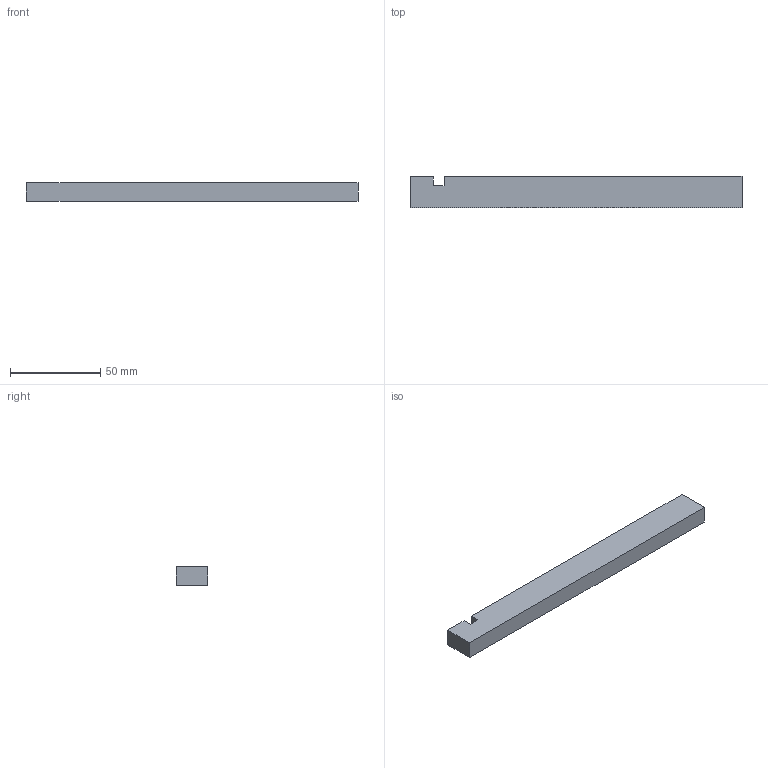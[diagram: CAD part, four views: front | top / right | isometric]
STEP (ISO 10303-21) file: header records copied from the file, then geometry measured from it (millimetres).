
FILE_DESCRIPTION (( 'STEP AP203' ), '1' );
FILE_NAME ('AB812FJ.STEP', '2024-02-22T13:15:54', ( '' ), ( '' ), 'SwSTEP 2.0', 'SolidWorks 2020', '' );
FILE_SCHEMA (( 'CONFIG_CONTROL_DESIGN' ));
Length unit declared in the file: millimetre
Products named in the file (1): AB812FJ
Bounding box: 183.86 x 17.47 x 10 mm (x, y, z)
Volume: 31775.7 mm3; surface area: 10480 mm2
Topology: 1 solids, 1 shells, 10 faces, 24 edges, 16 vertices
Faces by surface type: plane 10
Entity records: 365 total; most frequent: CARTESIAN_POINT 51, ORIENTED_EDGE 48, DIRECTION 46, LINE 24, VECTOR 24, EDGE_CURVE 24, VERTEX_POINT 16, AXIS2_PLACEMENT_3D 11
